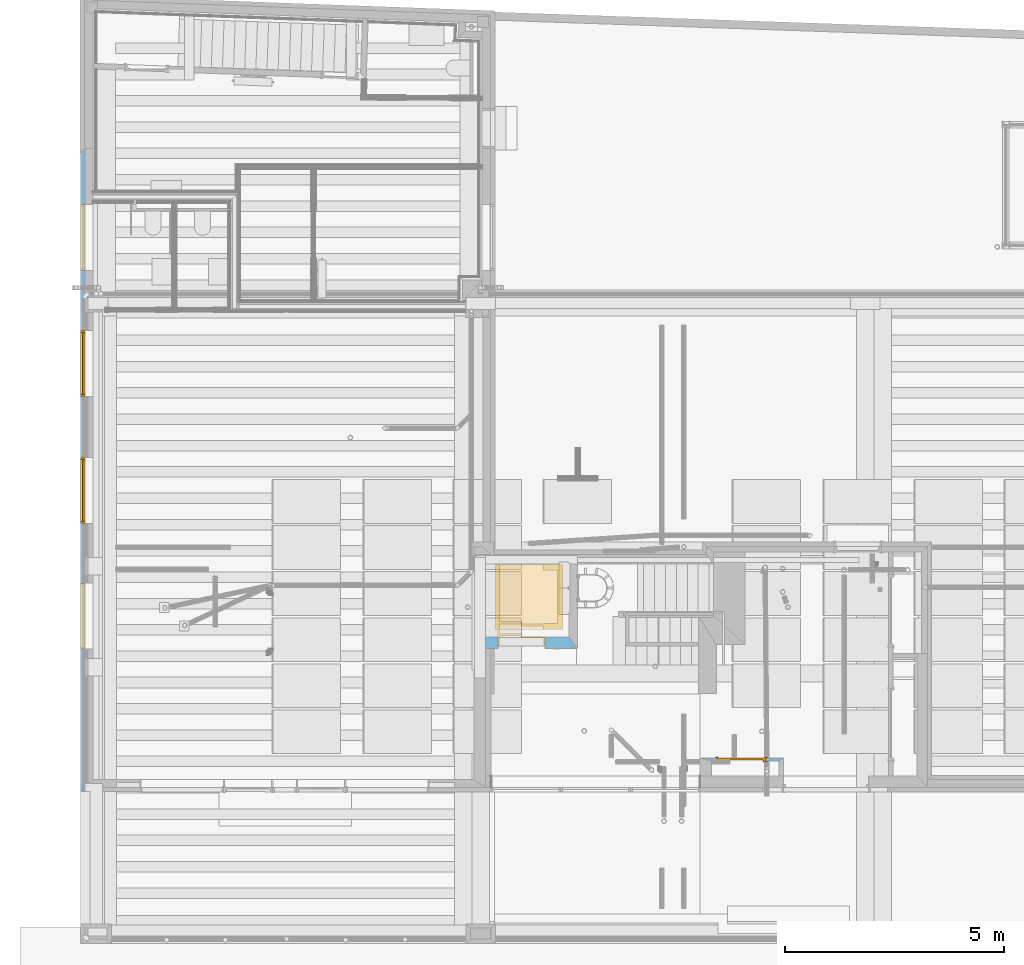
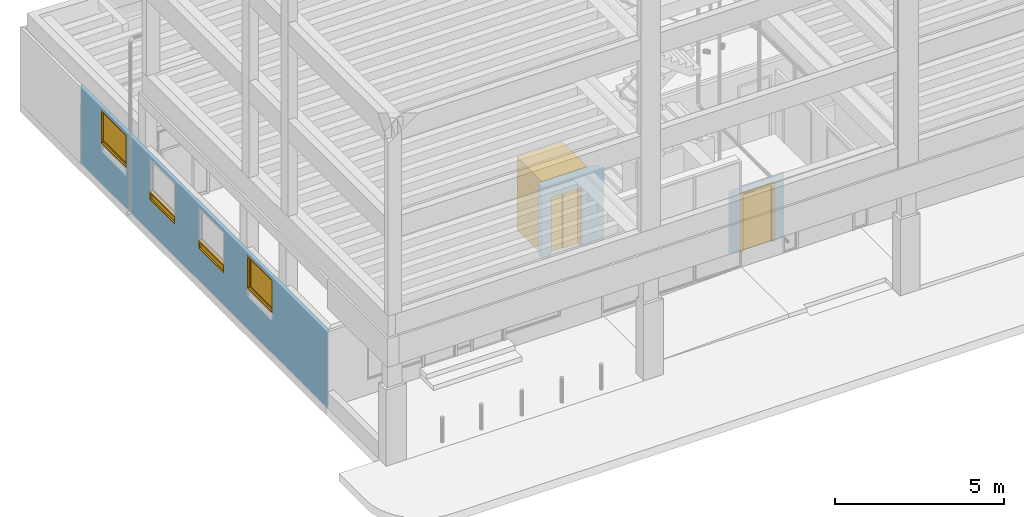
# One storey, part 22 of 106: 4 windows, 2 doors, 6 openings, plus 3 elements that do not belong to this part.
"""IFC2X3 building model written with IfcOpenShell, lengths in metres."""

from ifc_helpers import new_model, entity, si_unit, converted_unit, derived_unit, money_unit, direction, frame, frame_2d, origin_with_axes, place, context, subcontext, project, spatial, polyline, rectangle, outline, extrude, faceted_brep, material, layer, layer_set, layer_usage, type_object, element, fill, save


model = new_model("IFC2X3")

# Units and contexts
model_context = context("Model", 3, precision=1e-05, world=origin_with_axes(), true_north=direction((0.0, 1.0)))
body_context = subcontext(model_context, "Body", "Model", "MODEL_VIEW", scale=1.0)
ifc_project = project(units=[si_unit("LENGTHUNIT", "METRE"), si_unit("AREAUNIT", "SQUARE_METRE"), si_unit("VOLUMEUNIT", "CUBIC_METRE"), si_unit("ABSORBEDDOSEUNIT", "GRAY"), si_unit("AMOUNTOFSUBSTANCEUNIT", "MOLE"), si_unit("DOSEEQUIVALENTUNIT", "SIEVERT"), si_unit("ELECTRICCAPACITANCEUNIT", "FARAD"), si_unit("ELECTRICCHARGEUNIT", "COULOMB"), si_unit("ELECTRICCONDUCTANCEUNIT", "SIEMENS"), si_unit("ELECTRICCURRENTUNIT", "AMPERE"), si_unit("ELECTRICRESISTANCEUNIT", "OHM"), si_unit("ELECTRICVOLTAGEUNIT", "VOLT"), si_unit("ENERGYUNIT", "JOULE"), si_unit("FORCEUNIT", "NEWTON"), si_unit("FREQUENCYUNIT", "HERTZ"), si_unit("ILLUMINANCEUNIT", "LUX"), si_unit("INDUCTANCEUNIT", "HENRY"), si_unit("LUMINOUSFLUXUNIT", "LUMEN"), si_unit("LUMINOUSINTENSITYUNIT", "CANDELA"), si_unit("MAGNETICFLUXDENSITYUNIT", "TESLA"), si_unit("MAGNETICFLUXUNIT", "WEBER"), si_unit("MASSUNIT", "GRAM"), converted_unit("PLANEANGLEUNIT", "degree", entity("IfcReal", 0.0174532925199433), si_unit("PLANEANGLEUNIT", "RADIAN"), dimensions=[0, 0, 0, 0, 0, 0, 0]), si_unit("POWERUNIT", "WATT"), si_unit("PRESSUREUNIT", "PASCAL"), si_unit("RADIOACTIVITYUNIT", "BECQUEREL"), si_unit("SOLIDANGLEUNIT", "STERADIAN"), si_unit("THERMODYNAMICTEMPERATUREUNIT", "KELVIN"), si_unit("TIMEUNIT", "SECOND"), derived_unit("ACCELERATIONUNIT", [(si_unit("LENGTHUNIT", "METRE"), 1), (si_unit("TIMEUNIT", "SECOND"), -2)]), derived_unit("ANGULARVELOCITYUNIT", [(converted_unit("PLANEANGLEUNIT", "degree", entity("IfcReal", 0.0174532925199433), si_unit("PLANEANGLEUNIT", "RADIAN"), dimensions=[0, 0, 0, 0, 0, 0, 0]), 1), (si_unit("TIMEUNIT", "SECOND"), -1)]), derived_unit("CURVATUREUNIT", [(converted_unit("PLANEANGLEUNIT", "degree", entity("IfcReal", 0.0174532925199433), si_unit("PLANEANGLEUNIT", "RADIAN"), dimensions=[0, 0, 0, 0, 0, 0, 0]), 1), (si_unit("LENGTHUNIT", "METRE"), -1)]), derived_unit("DYNAMICVISCOSITYUNIT", [(si_unit("PRESSUREUNIT", "PASCAL"), 1), (si_unit("TIMEUNIT", "SECOND"), 1)]), derived_unit("HEATFLUXDENSITYUNIT", [(si_unit("POWERUNIT", "WATT"), 1), (si_unit("LENGTHUNIT", "METRE"), -2)]), derived_unit("HEATINGVALUEUNIT", [(si_unit("ENERGYUNIT", "JOULE"), 1), (si_unit("MASSUNIT", "GRAM"), -1)]), derived_unit("INTEGERCOUNTRATEUNIT", [(si_unit("TIMEUNIT", "SECOND"), -1)]), derived_unit("IONCONCENTRATIONUNIT", [(si_unit("MASSUNIT", "GRAM"), 1), (si_unit("VOLUMEUNIT", "CUBIC_METRE"), -1)]), derived_unit("ISOTHERMALMOISTURECAPACITYUNIT", [(si_unit("VOLUMEUNIT", "CUBIC_METRE"), 1), (si_unit("MASSUNIT", "GRAM"), -1)]), derived_unit("KINEMATICVISCOSITYUNIT", [(si_unit("AREAUNIT", "SQUARE_METRE"), 1), (si_unit("TIMEUNIT", "SECOND"), -1)]), derived_unit("LINEARFORCEUNIT", [(si_unit("FORCEUNIT", "NEWTON"), 1), (si_unit("LENGTHUNIT", "METRE"), -1)]), derived_unit("LINEARMOMENTUNIT", [(si_unit("FORCEUNIT", "NEWTON"), 1), (si_unit("LENGTHUNIT", "METRE"), -1)]), derived_unit("LINEARSTIFFNESSUNIT", [(si_unit("FORCEUNIT", "NEWTON"), 1), (si_unit("LENGTHUNIT", "METRE"), -1)]), derived_unit("LINEARVELOCITYUNIT", [(si_unit("LENGTHUNIT", "METRE"), 1), (si_unit("TIMEUNIT", "SECOND"), -1)]), derived_unit("LUMINOUSINTENSITYDISTRIBUTIONUNIT", [(si_unit("LUMINOUSINTENSITYUNIT", "CANDELA"), 1), (si_unit("LUMINOUSFLUXUNIT", "LUMEN"), -1)]), derived_unit("MASSDENSITYUNIT", [(si_unit("MASSUNIT", "GRAM"), 1), (si_unit("VOLUMEUNIT", "CUBIC_METRE"), -1)]), derived_unit("MASSFLOWRATEUNIT", [(si_unit("MASSUNIT", "GRAM"), 1), (si_unit("TIMEUNIT", "SECOND"), -1)]), derived_unit("MASSPERLENGTHUNIT", [(si_unit("MASSUNIT", "GRAM"), 1), (si_unit("LENGTHUNIT", "METRE"), -1)]), derived_unit("MODULUSOFELASTICITYUNIT", [(si_unit("FORCEUNIT", "NEWTON"), 1), (si_unit("AREAUNIT", "SQUARE_METRE"), -1)]), derived_unit("MODULUSOFLINEARSUBGRADEREACTIONUNIT", [(si_unit("FORCEUNIT", "NEWTON"), 1), (si_unit("LENGTHUNIT", "METRE"), -2)]), derived_unit("MODULUSOFROTATIONALSUBGRADEREACTIONUNIT", [(si_unit("FORCEUNIT", "NEWTON"), 1), (si_unit("LENGTHUNIT", "METRE"), 1)]), derived_unit("MODULUSOFSUBGRADEREACTIONUNIT", [(si_unit("FORCEUNIT", "NEWTON"), 1), (si_unit("VOLUMEUNIT", "CUBIC_METRE"), -1)]), derived_unit("MOISTUREDIFFUSIVITYUNIT", [(si_unit("VOLUMEUNIT", "CUBIC_METRE"), 1), (si_unit("TIMEUNIT", "SECOND"), -1)]), derived_unit("MOLECULARWEIGHTUNIT", [(si_unit("MASSUNIT", "GRAM"), 1), (si_unit("AMOUNTOFSUBSTANCEUNIT", "MOLE"), -1)]), derived_unit("PLANARFORCEUNIT", [(si_unit("FORCEUNIT", "NEWTON"), 1), (si_unit("LENGTHUNIT", "METRE"), -2)]), derived_unit("ROTATIONALFREQUENCYUNIT", [(si_unit("TIMEUNIT", "SECOND"), -1)]), derived_unit("ROTATIONALMASSUNIT", [(si_unit("MASSUNIT", "GRAM"), 1), (si_unit("LENGTHUNIT", "METRE"), 2)]), derived_unit("ROTATIONALSTIFFNESSUNIT", [(si_unit("FORCEUNIT", "NEWTON"), 1), (si_unit("LENGTHUNIT", "METRE"), 1), (converted_unit("PLANEANGLEUNIT", "degree", entity("IfcReal", 0.0174532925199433), si_unit("PLANEANGLEUNIT", "RADIAN"), dimensions=[0, 0, 0, 0, 0, 0, 0]), -1)]), derived_unit("SECTIONAREAINTEGRALUNIT", [(si_unit("LENGTHUNIT", "METRE"), 5)]), derived_unit("SECTIONMODULUSUNIT", [(si_unit("LENGTHUNIT", "METRE"), 3)]), derived_unit("SHEARMODULUSUNIT", [(si_unit("FORCEUNIT", "NEWTON"), 1), (si_unit("AREAUNIT", "SQUARE_METRE"), -1)]), derived_unit("SOUNDPOWERUNIT", [(si_unit("ENERGYUNIT", "JOULE"), 1), (si_unit("TIMEUNIT", "SECOND"), -1)]), derived_unit("SPECIFICHEATCAPACITYUNIT", [(si_unit("FORCEUNIT", "NEWTON"), 1), (si_unit("MASSUNIT", "GRAM"), -1), (si_unit("THERMODYNAMICTEMPERATUREUNIT", "KELVIN"), -1)]), derived_unit("TEMPERATUREGRADIENTUNIT", [(si_unit("THERMODYNAMICTEMPERATUREUNIT", "KELVIN"), 1), (si_unit("LENGTHUNIT", "METRE"), -1)]), derived_unit("THERMALADMITTANCEUNIT", [(si_unit("POWERUNIT", "WATT"), 1), (si_unit("AREAUNIT", "SQUARE_METRE"), -1), (si_unit("THERMODYNAMICTEMPERATUREUNIT", "KELVIN"), -1)]), derived_unit("THERMALCONDUCTANCEUNIT", [(si_unit("POWERUNIT", "WATT"), 1), (si_unit("LENGTHUNIT", "METRE"), -1), (si_unit("THERMODYNAMICTEMPERATUREUNIT", "KELVIN"), -1)]), derived_unit("THERMALEXPANSIONCOEFFICIENTUNIT", [(si_unit("THERMODYNAMICTEMPERATUREUNIT", "KELVIN"), -1)]), derived_unit("THERMALRESISTANCEUNIT", [(si_unit("AREAUNIT", "SQUARE_METRE"), 1), (si_unit("POWERUNIT", "WATT"), -1)]), derived_unit("THERMALTRANSMITTANCEUNIT", [(si_unit("POWERUNIT", "WATT"), 1), (si_unit("AREAUNIT", "SQUARE_METRE"), -1), (si_unit("THERMODYNAMICTEMPERATUREUNIT", "KELVIN"), -1)]), derived_unit("TORQUEUNIT", [(si_unit("FORCEUNIT", "NEWTON"), 1), (si_unit("LENGTHUNIT", "METRE"), 1)]), derived_unit("VAPORPERMEABILITYUNIT", [(si_unit("MASSUNIT", "GRAM"), 1), (si_unit("TIMEUNIT", "SECOND"), -1)]), derived_unit("VOLUMETRICFLOWRATEUNIT", [(si_unit("VOLUMEUNIT", "CUBIC_METRE"), 1), (si_unit("TIMEUNIT", "SECOND"), -1)]), derived_unit("WARPINGCONSTANTUNIT", [(si_unit("LENGTHUNIT", "METRE"), 6)]), derived_unit("WARPINGMOMENTUNIT", [(si_unit("FORCEUNIT", "NEWTON"), 1), (si_unit("LENGTHUNIT", "METRE"), 2)]), money_unit("GBP")], contexts=[model_context])

# Site, building, storey
site_placement = place(None, origin_with_axes())
site = spatial("IfcSite", under=ifc_project, at=site_placement, Name="Site", CompositionType="ELEMENT")
building_placement = place(site_placement, origin_with_axes())
building = spatial("IfcBuilding", under=site, at=building_placement, Name="Building01", CompositionType="ELEMENT")
storey_placement = place(building_placement, origin_with_axes())
storey = spatial("IfcBuildingStorey", under=building, at=storey_placement, Name="GF", CompositionType="ELEMENT", Elevation=0.0)

# Wall, openings
ifc_material_1 = material(Name="A_BSUK_WallsExternal_Brick")
ifc_layer_1 = layer(ifc_material_1, 0.1, ventilated=False)
ifc_layer_set_1 = layer_set([ifc_layer_1])
ifc_layer_usage_1 = layer_usage(ifc_layer_set_1, "AXIS2", "POSITIVE", 0.0)
wall_type_1 = type_object("IfcWallType", Name="A-Walls-ExternalBrick", PredefinedType="NOTDEFINED")
wall_1_placement = place(storey_placement, frame((0.000677, 18.020229, -0.145), z_axis=(0.0, 0.0, 1.0), x_axis=(-3.756e-05, -1.0, 0.0)))
wall_1 = element("IfcWallStandardCase", 1, at=wall_1_placement, inside=storey, type_object=wall_type_1, material=ifc_layer_usage_1, Name="A-Walls-ExternalBrick", ObjectType="A-Walls-ExternalBrick", context=body_context, shape_type="SweptSolid", body=[
    extrude(outline(polyline([(14.460712, 0.1), (-0.100004, 0.1), (0.0, 0.0), (14.560712, 0.0), (14.460712, 0.1)])), origin_with_axes(), (0.0, 0.0, 1.0), 2.745),
])
opening_1_placement = place(wall_1_placement, frame((6.944757, 0.0, 1.143), z_axis=(0.0, 0.0, 1.0), x_axis=(1.0, 0.0, 0.0)))
opening_1 = element("IfcOpeningElement", 2, at=opening_1_placement, cuts=wall_1, Name="Opening", ObjectType="Opening", context=body_context, shape_type="Brep", body=[
    faceted_brep([(1.5, 0.1, 0.0), (0.0, 0.1, 0.0), (0.0, 0.1, 1.5), (1.5, 0.1, 1.5), (4e-06, 0.0, 0.0), (1.500004, 0.0, 0.0), (4e-06, 0.0, 1.5), (1.500004, 0.0, 1.5)], [[[0, 1, 2, 3]], [[4, 1, 0, 5]], [[6, 2, 1, 4]], [[5, 0, 3, 7]], [[4, 5, 7, 6]], [[7, 3, 2, 6]]]),
])
opening_2_placement = place(wall_1_placement, frame((9.809487, 0.0, 1.143), z_axis=(0.0, 0.0, 1.0), x_axis=(1.0, 0.0, 0.0)))
opening_2 = element("IfcOpeningElement", 3, at=opening_2_placement, cuts=wall_1, Name="Opening", ObjectType="Opening", context=body_context, shape_type="Brep", body=[
    faceted_brep([(1.5, 0.1, 0.0), (0.0, 0.1, 0.0), (0.0, 0.1, 1.5), (1.5, 0.1, 1.5), (4e-06, 0.0, 1.5), (4e-06, 0.0, 0.0), (1.500004, 0.0, 1.5), (1.500004, 0.0, 0.0)], [[[0, 1, 2, 3]], [[4, 2, 1, 5]], [[6, 3, 2, 4]], [[7, 0, 3, 6]], [[5, 7, 6, 4]], [[5, 1, 0, 7]]]),
])
opening_3_placement = place(wall_1_placement, frame((4.051232, 0.0, 1.143), z_axis=(0.0, 0.0, 1.0), x_axis=(1.0, 0.0, 0.0)))
opening_3 = element("IfcOpeningElement", 4, at=opening_3_placement, cuts=wall_1, Name="Opening", ObjectType="Opening", context=body_context, shape_type="Brep", body=[
    faceted_brep([(1.5, 0.1, 0.0), (0.0, 0.1, 0.0), (0.0, 0.1, 1.5), (1.5, 0.1, 1.5), (4e-06, 0.0, 0.0), (1.500004, 0.0, 0.0), (4e-06, 0.0, 1.5), (1.500004, 0.0, 1.5)], [[[0, 1, 2, 3]], [[4, 1, 0, 5]], [[6, 2, 1, 4]], [[5, 0, 3, 7]], [[4, 5, 7, 6]], [[7, 3, 2, 6]]]),
])
opening_4_placement = place(wall_1_placement, frame((1.177435, 0.0, 1.143), z_axis=(0.0, 0.0, 1.0), x_axis=(1.0, 0.0, 0.0)))
opening_4 = element("IfcOpeningElement", 5, at=opening_4_placement, cuts=wall_1, Name="Opening", ObjectType="Opening", context=body_context, shape_type="Brep", body=[
    faceted_brep([(1.5, 0.1, 0.0), (0.0, 0.1, 0.0), (0.0, 0.1, 1.5), (1.5, 0.1, 1.5), (4e-06, 0.0, 1.5), (4e-06, 0.0, 0.0), (1.500004, 0.0, 1.5), (1.500004, 0.0, 0.0)], [[[0, 1, 2, 3]], [[4, 2, 1, 5]], [[6, 3, 2, 4]], [[7, 0, 3, 6]], [[5, 7, 6, 4]], [[5, 1, 0, 7]]]),
])

# Space
space_1_placement = place(storey_placement, frame((3.380525, 16.69365, 0.216987), z_axis=(0.0, 0.0, 1.0), x_axis=(-1.0, 0.0, 0.0)))
space_1 = spatial("IfcSpace", under=storey, at=space_1_placement, Name="0", CompositionType="ELEMENT", InteriorOrExteriorSpace="NOTDEFINED")

# Window
ifc_material_2 = material(Name="A_BSUK_Window_Frames")
window_style_1 = type_object("IfcWindowStyle", Name="A-Fixed", ConstructionType="NOTDEFINED", OperationType="USERDEFINED", ParameterTakesPrecedence=False, Sizeable=False)
window_1_placement = place(opening_1_placement, frame((1.500004, 0.0, 0.0), z_axis=(0.0, 0.0, 1.0), x_axis=(1.0, 3.756e-05, 0.0)))
window_1 = element("IfcWindow", 6, at=window_1_placement, inside=space_1, type_object=window_style_1, material=ifc_material_2, Name="0.01", ObjectType="A-Fixed", OverallHeight=0.300000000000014, OverallWidth=1.50000000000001, context=body_context, shape_type="Brep", body=[
    faceted_brep([(-0.042, 0.0, 0.042), (-0.042, 0.0, 0.258), (-0.042, 0.1, 0.258), (-0.042, 0.1, 0.042), (0.0, 0.1, 0.3), (-1.5, 0.1, 0.3), (-1.5, 0.0, 0.3), (0.0, 0.0, 0.3), (0.0, 0.1, 0.0), (0.0, 0.0, 0.0), (-1.5, 0.1, 0.0), (-1.5, 0.0, 0.0), (-1.458, 0.1, 0.258), (-1.458, 0.1, 0.042), (-1.458, 0.0, 0.042), (-1.458, 0.0, 0.258)], [[[0, 1, 2, 3]], [[4, 5, 6, 7]], [[8, 4, 7, 9]], [[10, 8, 9, 11]], [[5, 10, 11, 6]], [[5, 4, 8, 10], [3, 2, 12, 13]], [[14, 0, 3, 13]], [[15, 14, 13, 12]], [[1, 15, 12, 2]], [[9, 7, 6, 11], [15, 1, 0, 14]]]),
    faceted_brep([(-0.042, 0.053175, 0.258), (-0.042, 0.046825, 0.258), (-0.042, 0.046825, 0.042), (-0.042, 0.053175, 0.042), (-1.458, 0.053175, 0.042), (-1.458, 0.046825, 0.042), (-1.458, 0.046825, 0.258), (-1.458, 0.053175, 0.258)], [[[0, 1, 2, 3]], [[4, 5, 6, 7]], [[3, 2, 5, 4]], [[3, 4, 7, 0]], [[7, 6, 1, 0]], [[1, 6, 5, 2]]]),
])

fill(opening_1, window_1)

window_2_placement = place(opening_3_placement, frame((1.500004, 0.0, 0.0), z_axis=(0.0, 0.0, 1.0), x_axis=(1.0, 3.756e-05, 0.0)))
window_2 = element("IfcWindow", 7, at=window_2_placement, inside=space_1, type_object=window_style_1, material=ifc_material_2, Name="0.13", ObjectType="A-Fixed", OverallHeight=0.300000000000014, OverallWidth=1.50000000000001, context=body_context, shape_type="Brep", body=[
    faceted_brep([(-0.042, 0.0, 0.042), (-0.042, 0.0, 0.258), (-0.042, 0.1, 0.258), (-0.042, 0.1, 0.042), (0.0, 0.1, 0.3), (-1.5, 0.1, 0.3), (-1.5, 0.0, 0.3), (0.0, 0.0, 0.3), (0.0, 0.1, 0.0), (0.0, 0.0, 0.0), (-1.5, 0.1, 0.0), (-1.5, 0.0, 0.0), (-1.458, 0.1, 0.258), (-1.458, 0.1, 0.042), (-1.458, 0.0, 0.042), (-1.458, 0.0, 0.258)], [[[0, 1, 2, 3]], [[4, 5, 6, 7]], [[8, 4, 7, 9]], [[10, 8, 9, 11]], [[5, 10, 11, 6]], [[5, 4, 8, 10], [3, 2, 12, 13]], [[14, 0, 3, 13]], [[15, 14, 13, 12]], [[1, 15, 12, 2]], [[9, 7, 6, 11], [15, 1, 0, 14]]]),
    faceted_brep([(-0.042, 0.053175, 0.258), (-0.042, 0.046825, 0.258), (-0.042, 0.046825, 0.042), (-0.042, 0.053175, 0.042), (-1.458, 0.053175, 0.042), (-1.458, 0.046825, 0.042), (-1.458, 0.046825, 0.258), (-1.458, 0.053175, 0.258)], [[[0, 1, 2, 3]], [[4, 5, 6, 7]], [[3, 2, 5, 4]], [[3, 4, 7, 0]], [[7, 6, 1, 0]], [[1, 6, 5, 2]]]),
])

fill(opening_3, window_2)

ifc_material_3 = material(Name="A_BSUK_Windows")
window_style_2 = type_object("IfcWindowStyle", Name="A-Awning", ConstructionType="NOTDEFINED", OperationType="USERDEFINED", ParameterTakesPrecedence=False, Sizeable=False)
window_3_placement = place(opening_2_placement, frame((1.499999, 0.1254, 0.3), z_axis=(0.0, 0.0, 1.0), x_axis=(-1.0, -3.756e-05, 0.0)))
window_3 = element("IfcWindow", 8, at=window_3_placement, inside=space_1, type_object=window_style_2, material=ifc_material_3, Name="0.10", ObjectType="A-Awning", OverallHeight=1.20000000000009, OverallWidth=1.50000000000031, context=body_context, shape_type="Brep", body=[
    faceted_brep([(1.458, 0.1254, 0.042), (0.042, 0.1254, 0.042), (0.042, 0.0254, 0.042), (1.458, 0.0254, 0.042), (1.458, 0.1254, 1.158), (1.458, 0.0254, 1.158), (0.042, 0.1254, 1.158), (0.042, 0.0254, 1.158), (1.5, 0.0254, 0.0), (1.5, 0.0254, 1.2), (0.0, 0.0254, 1.2), (0.0, 0.0254, 0.0), (1.5, 0.1254, 1.2), (0.0, 0.1254, 1.2), (0.0, 0.1254, 0.0), (1.5, 0.1254, 0.0)], [[[0, 1, 2, 3]], [[4, 0, 3, 5]], [[6, 4, 5, 7]], [[8, 9, 10, 11], [3, 2, 7, 5]], [[1, 6, 7, 2]], [[10, 9, 12, 13]], [[8, 11, 14, 15]], [[9, 8, 15, 12]], [[15, 14, 13, 12], [0, 4, 6, 1]], [[11, 10, 13, 14]]]),
    faceted_brep([(1.4072, 0.0704, 0.0928), (0.0928, 0.0704, 0.0928), (0.0928, 0.0354, 0.0928), (1.4072, 0.0354, 0.0928), (1.4072, 0.0704, 1.1072), (1.4072, 0.0354, 1.1072), (0.0928, 0.0704, 1.1072), (0.0928, 0.0354, 1.1072), (1.458, 0.0704, 0.042), (0.042, 0.0704, 0.042), (0.042, 0.0704, 1.158), (1.458, 0.0704, 1.158), (0.042, 0.0354, 1.158), (1.458, 0.0354, 1.158), (0.042, 0.0354, 0.042), (1.458, 0.0354, 0.042)], [[[0, 1, 2, 3]], [[4, 0, 3, 5]], [[6, 4, 5, 7]], [[8, 9, 10, 11], [0, 4, 6, 1]], [[12, 13, 11, 10]], [[14, 12, 10, 9]], [[15, 14, 9, 8]], [[13, 15, 8, 11]], [[15, 13, 12, 14], [3, 2, 7, 5]], [[1, 6, 7, 2]]]),
    faceted_brep([(0.0928, 0.049725, 1.1072), (0.0928, 0.056075, 1.1072), (0.0928, 0.056075, 0.0928), (0.0928, 0.049725, 0.0928), (1.4072, 0.049725, 0.0928), (1.4072, 0.056075, 0.0928), (1.4072, 0.056075, 1.1072), (1.4072, 0.049725, 1.1072)], [[[0, 1, 2, 3]], [[4, 5, 6, 7]], [[7, 6, 1, 0]], [[3, 4, 7, 0]], [[3, 2, 5, 4]], [[1, 6, 5, 2]]]),
])

fill(opening_2, window_3)

# Space
space_2_placement = place(storey_placement, frame((0.280851, 16.893647, 0.217025), z_axis=(0.0, 0.0, 1.0), x_axis=(0.0, -1.0, 0.0)))
space_2 = spatial("IfcSpace", under=storey, at=space_2_placement, Name="F", CompositionType="ELEMENT", InteriorOrExteriorSpace="NOTDEFINED")

# Window
window_4_placement = place(opening_4_placement, frame((1.499999, 0.125348, 0.3), z_axis=(0.0, 0.0, 1.0), x_axis=(-1.0, -3.756e-05, 0.0)))
window_4 = element("IfcWindow", 9, at=window_4_placement, inside=space_2, type_object=window_style_2, material=ifc_material_3, Name="0.15", ObjectType="A-Awning", OverallHeight=1.20000000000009, OverallWidth=1.50000000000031, context=body_context, shape_type="Brep", body=[
    faceted_brep([(1.458, 0.1254, 0.042), (0.042, 0.1254, 0.042), (0.042, 0.0254, 0.042), (1.458, 0.0254, 0.042), (1.458, 0.1254, 1.158), (1.458, 0.0254, 1.158), (0.042, 0.1254, 1.158), (0.042, 0.0254, 1.158), (1.5, 0.0254, 0.0), (1.5, 0.0254, 1.2), (0.0, 0.0254, 1.2), (0.0, 0.0254, 0.0), (1.5, 0.1254, 1.2), (0.0, 0.1254, 1.2), (0.0, 0.1254, 0.0), (1.5, 0.1254, 0.0)], [[[0, 1, 2, 3]], [[4, 0, 3, 5]], [[6, 4, 5, 7]], [[8, 9, 10, 11], [3, 2, 7, 5]], [[1, 6, 7, 2]], [[10, 9, 12, 13]], [[8, 11, 14, 15]], [[9, 8, 15, 12]], [[15, 14, 13, 12], [0, 4, 6, 1]], [[11, 10, 13, 14]]]),
    faceted_brep([(1.4072, 0.0704, 0.0928), (0.0928, 0.0704, 0.0928), (0.0928, 0.0354, 0.0928), (1.4072, 0.0354, 0.0928), (1.4072, 0.0704, 1.1072), (1.4072, 0.0354, 1.1072), (0.0928, 0.0704, 1.1072), (0.0928, 0.0354, 1.1072), (1.458, 0.0704, 0.042), (0.042, 0.0704, 0.042), (0.042, 0.0704, 1.158), (1.458, 0.0704, 1.158), (0.042, 0.0354, 1.158), (1.458, 0.0354, 1.158), (0.042, 0.0354, 0.042), (1.458, 0.0354, 0.042)], [[[0, 1, 2, 3]], [[4, 0, 3, 5]], [[6, 4, 5, 7]], [[8, 9, 10, 11], [0, 4, 6, 1]], [[12, 13, 11, 10]], [[14, 12, 10, 9]], [[15, 14, 9, 8]], [[13, 15, 8, 11]], [[15, 13, 12, 14], [3, 2, 7, 5]], [[1, 6, 7, 2]]]),
    faceted_brep([(0.0928, 0.049725, 1.1072), (0.0928, 0.056075, 1.1072), (0.0928, 0.056075, 0.0928), (0.0928, 0.049725, 0.0928), (1.4072, 0.049725, 0.0928), (1.4072, 0.056075, 0.0928), (1.4072, 0.056075, 1.1072), (1.4072, 0.049725, 1.1072)], [[[0, 1, 2, 3]], [[4, 5, 6, 7]], [[7, 6, 1, 0]], [[3, 4, 7, 0]], [[3, 2, 5, 4]], [[1, 6, 5, 2]]]),
])

fill(opening_4, window_4)

# Wall, opening
ifc_material_4 = material(Name="A_BSUK_WallsInternal_Block")
ifc_layer_2 = layer(ifc_material_4, 0.264, ventilated=False)
ifc_layer_set_2 = layer_set([ifc_layer_2])
ifc_layer_usage_2 = layer_usage(ifc_layer_set_2, "AXIS2", "POSITIVE", 0.0)
wall_type_2 = type_object("IfcWallType", Name="A-Walls-InternalBlock", PredefinedType="NOTDEFINED")
wall_2_placement = place(storey_placement, frame((11.13, 6.989761, 0.0), z_axis=(0.0, 0.0, 1.0), x_axis=(-1.0, 0.0, 0.0)))
wall_2 = element("IfcWallStandardCase", 10, at=wall_2_placement, inside=storey, type_object=wall_type_2, material=ifc_layer_usage_2, Name="A-Walls-InternalBlock", ObjectType="A-Walls-InternalBlock", context=body_context, shape_type="SweptSolid", body=[
    extrude(outline(polyline([(1.900001, 0.264), (-0.1938, 0.264), (0.0, 0.0), (1.900001, 0.0), (1.900001, 0.264)])), origin_with_axes(), (0.0, 0.0, 1.0), 2.6),
])
opening_5_placement = place(wall_2_placement, frame((0.538302, 0.0, 0.0), z_axis=(0.0, 0.0, 1.0), x_axis=(1.0, 0.0, 0.0)))
opening_5 = element("IfcOpeningElement", 11, at=opening_5_placement, cuts=wall_2, Name="Opening", ObjectType="Opening", context=body_context, shape_type="SweptSolid", body=[
    extrude(rectangle(XDim=2.14, YDim=1.08, at=frame_2d((-0.54, 1.07), x_axis=(0.0, -1.0))), frame((0.0, 0.0, 0.0), z_axis=(0.0, 1.0, 0.0), x_axis=(-1.0, 0.0, 0.0)), (0.0, 0.0, 1.0), 0.264),
])

# Space
space_3_placement = place(storey_placement, frame((21.91816, 14.897172, 0.0), z_axis=(0.0, 0.0, 1.0), x_axis=(-1.0, 0.0, 0.0)))
space_3 = spatial("IfcSpace", under=storey, at=space_3_placement, Name="UNDERCROFT (back)", CompositionType="ELEMENT", InteriorOrExteriorSpace="NOTDEFINED")

# Door
ifc_material_5 = material(Name="A_BSUK_Doors")
door_style_1 = type_object("IfcDoorStyle", Name="A-ElevatorDoor-2SpeedWithCab", ConstructionType="USERDEFINED", OperationType="USERDEFINED", ParameterTakesPrecedence=False, Sizeable=False)
door_1_placement = place(opening_5_placement, frame((1.04, 0.176215, 0.0), z_axis=(0.0, 0.0, 1.0), x_axis=(-1.0, 0.0, 0.0)))
door_1 = element("IfcDoor", 12, at=door_1_placement, inside=space_3, type_object=door_style_1, material=ifc_material_5, Name="A-ElevatorDoor-2SpeedWithCab", ObjectType="A-ElevatorDoor-2SpeedWithCab", OverallHeight=2.14, OverallWidth=1.08, context=body_context, shape_type="Brep", body=[
    faceted_brep([(1.05, 0.0, 0.0), (1.05, 0.0, 2.1), (1.05, -0.012, 2.1), (1.05, -0.012, 0.0), (1.0, -0.012, 0.0), (1.0, -0.012, 2.1), (1.0, 0.137, 2.1), (1.0, 0.137, 0.0), (1.05, 0.137, 2.1), (1.05, 0.137, 0.0), (1.05, 0.125, 2.1), (1.05, 0.125, 0.0), (1.04, 0.125, 2.1), (1.04, 0.125, 0.0), (1.04, 0.0, 2.1), (1.04, 0.0, 0.0)], [[[0, 1, 2, 3]], [[4, 5, 6, 7]], [[7, 6, 8, 9]], [[9, 8, 10, 11]], [[11, 10, 12, 13]], [[13, 12, 14, 15]], [[15, 14, 1, 0]], [[3, 4, 7, 9, 11, 13, 15, 0]], [[3, 2, 5, 4]], [[1, 14, 12, 10, 8, 6, 5, 2]]]),
    faceted_brep([(1.05, 0.0, 2.2), (-0.05, 0.0, 2.2), (-0.05, -0.012, 2.2), (1.05, -0.012, 2.2), (1.05, -0.012, 2.1), (-0.05, -0.012, 2.1), (-0.05, 0.137, 2.1), (1.05, 0.137, 2.1), (-0.05, 0.137, 2.2), (1.05, 0.137, 2.2), (-0.05, 0.125, 2.2), (1.05, 0.125, 2.2), (-0.05, 0.125, 2.14), (1.05, 0.125, 2.14), (-0.05, 0.0, 2.14), (1.05, 0.0, 2.14)], [[[0, 1, 2, 3]], [[4, 5, 6, 7]], [[7, 6, 8, 9]], [[9, 8, 10, 11]], [[11, 10, 12, 13]], [[13, 12, 14, 15]], [[15, 14, 1, 0]], [[3, 4, 7, 9, 11, 13, 15, 0]], [[3, 2, 5, 4]], [[1, 14, 12, 10, 8, 6, 5, 2]]]),
    faceted_brep([(-0.05, 0.0, 2.1), (-0.05, 0.0, 0.0), (-0.05, -0.012, 0.0), (-0.05, -0.012, 2.1), (0.0, -0.012, 2.1), (0.0, -0.012, 0.0), (0.0, 0.137, 0.0), (0.0, 0.137, 2.1), (-0.05, 0.137, 0.0), (-0.05, 0.137, 2.1), (-0.05, 0.125, 0.0), (-0.05, 0.125, 2.1), (-0.04, 0.125, 0.0), (-0.04, 0.125, 2.1), (-0.04, 0.0, 0.0), (-0.04, 0.0, 2.1)], [[[0, 1, 2, 3]], [[4, 5, 6, 7]], [[7, 6, 8, 9]], [[9, 8, 10, 11]], [[11, 10, 12, 13]], [[13, 12, 14, 15]], [[15, 14, 1, 0]], [[3, 4, 7, 9, 11, 13, 15, 0]], [[3, 2, 5, 4]], [[1, 14, 12, 10, 8, 6, 5, 2]]]),
    faceted_brep([(-0.025, 0.25, 2.125), (-0.025, 0.2, 2.125), (0.5, 0.2, 2.125), (0.5, 0.25, 2.125), (0.5, 0.25, -0.025), (0.5, 0.2, -0.025), (-0.025, 0.2, -0.025), (-0.025, 0.25, -0.025)], [[[0, 1, 2, 3]], [[4, 5, 6, 7]], [[7, 6, 1, 0]], [[3, 4, 7, 0]], [[3, 2, 5, 4]], [[1, 6, 5, 2]]]),
    faceted_brep([(-0.025, 0.5254, 2.125), (-0.025, 0.4754, 2.125), (0.5, 0.4754, 2.125), (0.5, 0.5254, 2.125), (0.5, 0.5254, -0.0594), (0.5, 0.4754, -0.0594), (-0.025, 0.4754, -0.0594), (-0.025, 0.5254, -0.0594)], [[[0, 1, 2, 3]], [[4, 5, 6, 7]], [[7, 6, 1, 0]], [[3, 4, 7, 0]], [[3, 2, 5, 4]], [[1, 6, 5, 2]]]),
    faceted_brep([(1.025, 0.4254, 2.125), (1.025, 0.4754, 2.125), (0.5, 0.4754, 2.125), (0.5, 0.4254, 2.125), (0.5, 0.4254, -0.025), (0.5, 0.4754, -0.025), (1.025, 0.4754, -0.025), (1.025, 0.4254, -0.025)], [[[0, 1, 2, 3]], [[4, 5, 6, 7]], [[7, 6, 1, 0]], [[3, 4, 7, 0]], [[3, 2, 5, 4]], [[1, 6, 5, 2]]]),
    faceted_brep([(1.025, 0.15, 2.125), (1.025, 0.2, 2.125), (0.5, 0.2, 2.125), (0.5, 0.15, 2.125), (0.5, 0.15, -0.025), (0.5, 0.2, -0.025), (1.025, 0.2, -0.025), (1.025, 0.15, -0.025)], [[[0, 1, 2, 3]], [[4, 5, 6, 7]], [[7, 6, 1, 0]], [[3, 4, 7, 0]], [[3, 2, 5, 4]], [[1, 6, 5, 2]]]),
    faceted_brep([(1.45, 1.825, 2.4762), (1.45, 1.825, 2.4), (-0.1, 1.825, 2.4), (-0.1, 1.825, 2.4762), (-0.1, 0.35, 2.4762), (-0.1, 0.35, 2.4), (1.45, 0.35, 2.4), (1.45, 0.35, 2.4762)], [[[0, 1, 2, 3]], [[4, 5, 6, 7]], [[7, 6, 1, 0]], [[3, 4, 7, 0]], [[3, 2, 5, 4]], [[1, 6, 5, 2]]]),
    faceted_brep([(1.0, 0.35, 0.0), (1.45, 0.35, 0.0), (1.45, 1.825, 0.0), (1.0, 1.825, 0.0), (0.0, 0.35, 0.0), (0.0, 1.825, 0.0), (-0.1, 1.825, 0.0), (-0.1, 0.35, 0.0), (1.45, 1.825, -0.1524), (-0.1, 1.825, -0.1524), (1.45, 0.35, -0.1524), (-0.1, 0.35, -0.1524)], [[[0, 1, 2, 3]], [[4, 0, 3, 5]], [[5, 6, 7, 4]], [[3, 2, 8, 9, 6, 5]], [[10, 11, 9, 8]], [[11, 7, 6, 9]], [[4, 7, 11, 10, 1, 0]], [[8, 2, 1, 10]]]),
    faceted_brep([(-0.1, 1.825, 2.4), (-0.1, 1.825, 0.0), (-0.1, 0.35, 0.0), (-0.1, 0.35, 2.4), (1.0, 0.35, 0.0), (1.45, 0.35, 0.0), (1.45, 0.35, 2.4), (0.0, 0.35, 0.0), (0.0, 0.35, 2.1), (1.0, 0.35, 2.1), (0.0, 1.825, 2.1), (0.0, 1.825, 0.0), (1.0, 1.825, 2.1), (1.0, 1.698, 2.1), (0.027, 1.698, 2.1), (0.027, 0.477, 2.1), (1.0, 0.477, 2.1), (1.0, 1.825, 0.0), (1.0, 1.698, 0.0), (1.0, 0.477, 0.0), (0.027, 0.477, 2.4), (1.323, 0.477, 2.4), (1.323, 0.477, 0.0), (1.323, 1.698, 2.4), (1.323, 1.698, 0.0), (0.027, 1.698, 2.4), (1.45, 1.825, 0.0), (1.45, 1.825, 2.4)], [[[0, 1, 2, 3]], [[4, 5, 6, 3, 2, 7, 8, 9]], [[10, 8, 7, 11]], [[12, 13, 14, 15, 16, 9, 8, 10]], [[17, 18, 13, 12]], [[19, 4, 9, 16]], [[16, 15, 20, 21, 22, 19]], [[23, 24, 22, 21]], [[14, 25, 20, 15]], [[13, 18, 24, 23, 25, 14]], [[17, 26, 5, 4, 19, 22, 24, 18]], [[27, 0, 3, 6], [20, 25, 23, 21]], [[6, 5, 26, 27]], [[10, 11, 1, 0, 27, 26, 17, 12]], [[7, 2, 1, 11]]]),
    faceted_brep([(0.0, 0.137, 2.125), (0.0, 0.137, 0.0), (0.0, 0.3246, 0.0), (0.0, 0.3246, 2.125), (-0.05, 0.3246, 2.125), (-0.05, 0.3246, 0.0), (-0.05, 0.137, 0.0), (-0.05, 0.137, 2.125)], [[[0, 1, 2, 3]], [[4, 5, 6, 7]], [[7, 6, 1, 0]], [[3, 4, 7, 0]], [[3, 2, 5, 4]], [[1, 6, 5, 2]]]),
])

fill(opening_5, door_1)

# Wall, opening
ifc_material_6 = material(Name="A_BSUK_WallsInternal")
ifc_layer_3 = layer(ifc_material_6, 0.07, ventilated=False)
ifc_layer_set_3 = layer_set([ifc_layer_3])
ifc_layer_usage_3 = layer_usage(ifc_layer_set_3, "AXIS2", "POSITIVE", 0.0)
wall_type_3 = type_object("IfcWallType", Name="A-Walls-Internal", PredefinedType="NOTDEFINED")
wall_3_placement = place(storey_placement, frame((16.022644, 4.22747, 0.0), z_axis=(0.0, 0.0, 1.0), x_axis=(-1.0, 0.0, 0.0)))
wall_3 = element("IfcWallStandardCase", 13, at=wall_3_placement, inside=storey, type_object=wall_type_3, material=ifc_layer_usage_3, Name="A-Walls-Internal", ObjectType="A-Walls-Internal", context=body_context, shape_type="SweptSolid", body=[
    extrude(outline(polyline([(1.638314, 0.07), (0.107, 0.07), (0.0, 0.0), (1.901314, 0.0), (1.638314, 0.07)])), origin_with_axes(), (0.0, 0.0, 1.0), 2.3),
])
opening_6_placement = place(wall_3_placement, frame((0.395883, 0.0, 0.0), z_axis=(0.0, 0.0, 1.0), x_axis=(1.0, 0.0, 0.0)))
opening_6 = element("IfcOpeningElement", 14, at=opening_6_placement, cuts=wall_3, Name="Opening", ObjectType="Opening", context=body_context, shape_type="Brep", body=[
    faceted_brep([(0.0, 0.0, 2.1), (0.0, 0.0, 0.0), (1.124, 0.0, 0.0), (1.124, 0.0, 2.1), (3e-06, 0.07, 0.0), (3e-06, 0.07, 2.1), (1.124003, 0.07, 2.1), (1.124003, 0.07, 0.0)], [[[0, 1, 2, 3]], [[4, 5, 6, 7]], [[1, 4, 7, 2]], [[5, 0, 3, 6]], [[4, 1, 0, 5]], [[6, 3, 2, 7]]]),
])

# Space
space_4_placement = place(storey_placement, frame((9.419099, 6.725761, 0.0), z_axis=(0.0, 0.0, 1.0), x_axis=(0.0, -1.0, 0.0)))
space_4 = spatial("IfcSpace", under=storey, at=space_4_placement, Name="ENTRANCE", CompositionType="ELEMENT", InteriorOrExteriorSpace="NOTDEFINED")

# Door
door_style_2 = type_object("IfcDoorStyle", Name="A-Doors-DoubleFlush", ConstructionType="USERDEFINED", OperationType="DOUBLE_DOOR_SINGLE_SWING", ParameterTakesPrecedence=False, Sizeable=False)
door_2_placement = place(opening_6_placement, frame((1.082, -0.000264, 0.0), z_axis=(0.0, 0.0, 1.0), x_axis=(-1.0, 3.756e-05, 0.0)))
door_2 = element("IfcDoor", 15, at=door_2_placement, inside=space_4, type_object=door_style_2, material=ifc_material_5, Name="0.05", ObjectType="A-Doors-DoubleFlush", OverallHeight=2.12700000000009, OverallWidth=1.17800000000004, context=body_context, shape_type="Brep", body=[
    faceted_brep([(0.0, -0.089, 2.058), (1.04, -0.089, 2.058), (1.04, -0.089, 0.0), (1.109, -0.089, 0.0), (1.109, -0.089, 2.127), (-0.069, -0.089, 2.127), (-0.069, -0.089, 0.0), (0.0, -0.089, 0.0), (1.109, -0.07, 2.127), (1.109, -0.07, 0.0), (-0.069, -0.07, 0.0), (-0.069, -0.07, 2.127), (-0.042, -0.07, 0.0), (-0.042, 0.0, 0.0), (-0.069, 0.0, 0.0), (-0.069, 0.019, 0.0), (0.0, 0.019, 0.0), (0.0, 0.019, 2.058), (1.04, 0.019, 2.058), (-0.069, 0.019, 2.127), (1.109, 0.019, 2.127), (1.109, 0.019, 0.0), (1.04, 0.019, 0.0), (-0.069, 0.0, 2.127), (-0.042, 0.0, 2.1), (-0.042, -0.07, 2.1), (1.082, 0.0, 2.1), (1.082, -0.07, 2.1), (1.082, -0.07, 0.0), (1.082, 0.0, 0.0), (1.109, 0.0, 0.0), (1.109, 0.0, 2.127)], [[[0, 1, 2, 3, 4, 5, 6, 7]], [[8, 4, 3, 9]], [[10, 6, 5, 11]], [[11, 5, 4, 8]], [[7, 6, 10, 12, 13, 14, 15, 16]], [[7, 16, 17, 0]], [[0, 17, 18, 1]], [[17, 16, 15, 19, 20, 21, 22, 18]], [[1, 18, 22, 2]], [[14, 23, 19, 15]], [[24, 13, 12, 25]], [[26, 24, 25, 27]], [[11, 8, 9, 28, 27, 25, 12, 10]], [[27, 28, 29, 26]], [[26, 29, 30, 31, 23, 14, 13, 24]], [[22, 21, 30, 29, 28, 9, 3, 2]], [[30, 21, 20, 31]], [[31, 20, 19, 23]]]),
    faceted_brep([(1.04, -0.09, 0.0), (1.04, -0.04, 0.0), (1.04, -0.04, 2.058), (1.04, -0.09, 2.058), (0.025, -0.09, 2.033), (1.015, -0.09, 2.033), (1.015, -0.09, 0.0), (0.0, -0.09, 2.058), (0.0, -0.09, 0.0), (0.025, -0.09, 0.0), (0.0, -0.04, 0.0), (0.025, -0.04, 0.0), (0.0, -0.04, 2.058), (0.025, -0.04, 2.033), (1.015, -0.04, 0.0), (1.015, -0.04, 2.033)], [[[0, 1, 2, 3]], [[4, 5, 6, 0, 3, 7, 8, 9]], [[9, 8, 10, 11]], [[3, 2, 12, 7]], [[7, 12, 10, 8]], [[13, 11, 10, 12, 2, 1, 14, 15]], [[5, 15, 14, 6]], [[14, 1, 0, 6]], [[9, 11, 13, 4]], [[4, 13, 15, 5]]]),
    faceted_brep([(0.0, -0.04, 2.058), (0.0, 0.0, 2.058), (0.0, 0.0, 0.0), (0.0, -0.04, 0.0), (0.52, -0.04, 0.0), (0.52, 0.0, 0.0), (0.52, 0.0, 2.058), (0.52, -0.04, 2.058)], [[[0, 1, 2, 3]], [[4, 5, 6, 7]], [[3, 2, 5, 4]], [[3, 4, 7, 0]], [[7, 6, 1, 0]], [[1, 6, 5, 2]]]),
    faceted_brep([(0.52, -0.04, 2.058), (0.52, 0.0, 2.058), (0.52, 0.0, 0.0), (0.52, -0.04, 0.0), (1.04, -0.04, 0.0), (1.04, 0.0, 0.0), (1.04, 0.0, 2.058), (1.04, -0.04, 2.058)], [[[0, 1, 2, 3]], [[4, 5, 6, 7]], [[3, 2, 5, 4]], [[3, 4, 7, 0]], [[7, 6, 1, 0]], [[1, 6, 5, 2]]]),
])

fill(opening_6, door_2)

save(model, "model.ifc")
